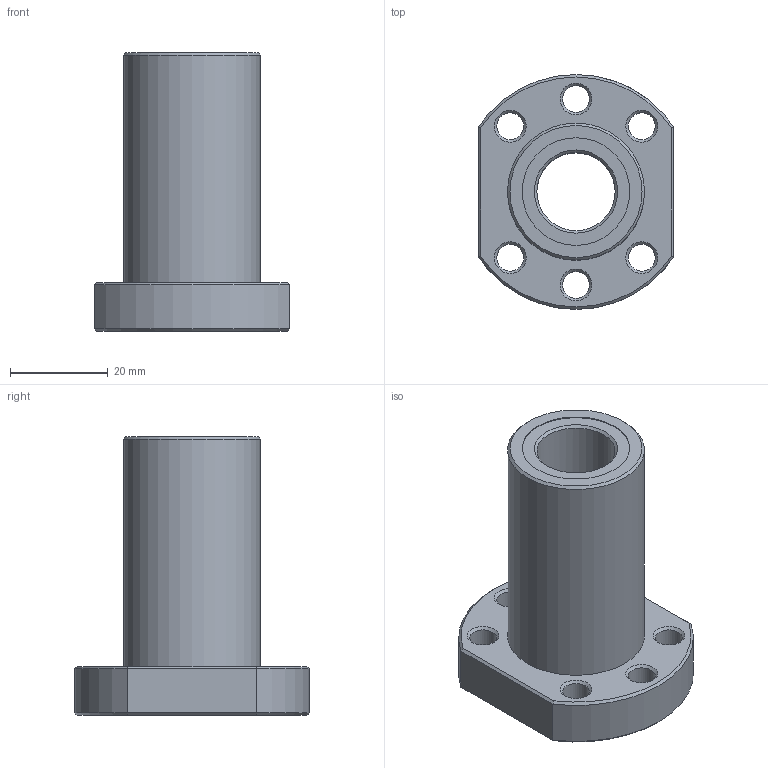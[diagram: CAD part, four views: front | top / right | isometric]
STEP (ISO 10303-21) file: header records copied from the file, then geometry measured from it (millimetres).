
FILE_DESCRIPTION(('STEP AP214'), '1');
FILE_NAME('SFU1610 - Ãàéêà ØÂÏ', '', ('UNSPECIFIED'), ('UNSPECIFIED'), 'ASCON STEP Converter 1.3', 'ASCON Math Kernel', '');
FILE_SCHEMA(('AUTOMOTIVE_DESIGN { 1 0 10303 214 3 1 1}'));
Length unit declared in the file: millimetre
Bounding box: 40 x 48 x 57 mm (x, y, z)
Volume: 32251.3 mm3; surface area: 12190.4 mm2
Topology: 1 solids, 1 shells, 42 faces, 89 edges, 52 vertices
Faces by surface type: cone 18, cylinder 13, plane 11
Full cylindrical faces by diameter (mm): 4.917 x1, 5.5 x6, 16 x1, 22 x2, 28 x1
Entity records: 1592 total; most frequent: CARTESIAN_POINT 328, DIRECTION 190, ORIENTED_EDGE 128, AXIS2_PLACEMENT_3D 89, EDGE_LOOP 86, EDGE_CURVE 64, VERTEX_POINT 52, FACE_OUTER_BOUND 50
